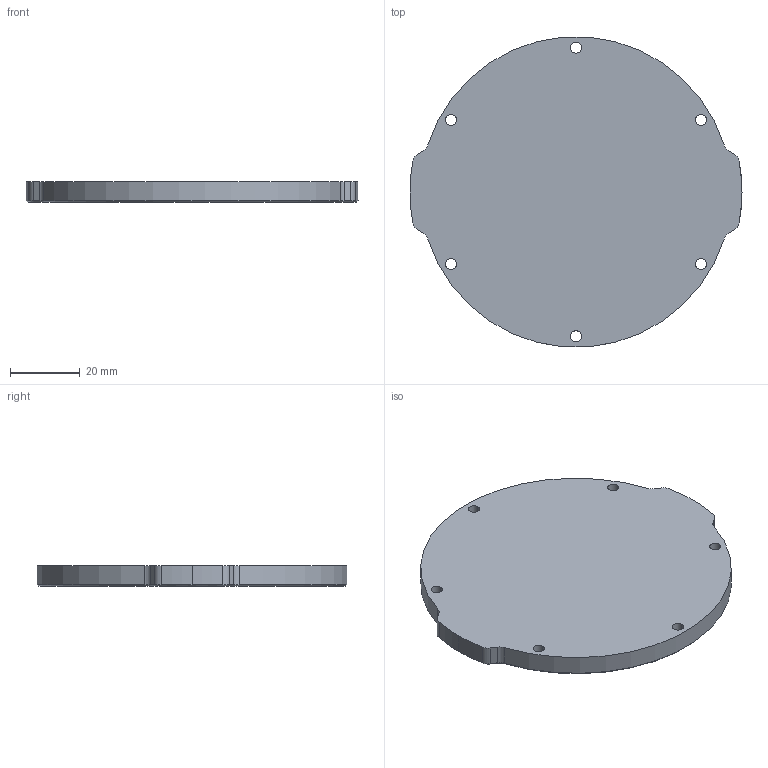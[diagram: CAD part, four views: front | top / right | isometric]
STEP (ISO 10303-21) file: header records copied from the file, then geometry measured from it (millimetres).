
FILE_DESCRIPTION (( 'STEP AP214' ), '1' );
FILE_NAME ('WTE3-M-END-CAP-R1.STEP', '2018-10-16T22:51:18', ( '' ), ( '' ), 'SwSTEP 2.0', 'SolidWorks 2016', '' );
FILE_SCHEMA (( 'AUTOMOTIVE_DESIGN' ));
Length unit declared in the file: millimetre
Products named in the file (1): WTE3-M-END-CAP-R1
Bounding box: 95 x 88.59 x 6 mm (x, y, z)
Volume: 37747 mm3; surface area: 14589 mm2
Topology: 1 solids, 1 shells, 48 faces, 122 edges, 76 vertices
Faces by surface type: cylinder 25, cone 13, plane 10
Entity records: 1520 total; most frequent: DIRECTION 284, CARTESIAN_POINT 247, ORIENTED_EDGE 244, EDGE_CURVE 122, AXIS2_PLACEMENT_3D 113, VERTEX_POINT 76, CIRCLE 64, EDGE_LOOP 60
